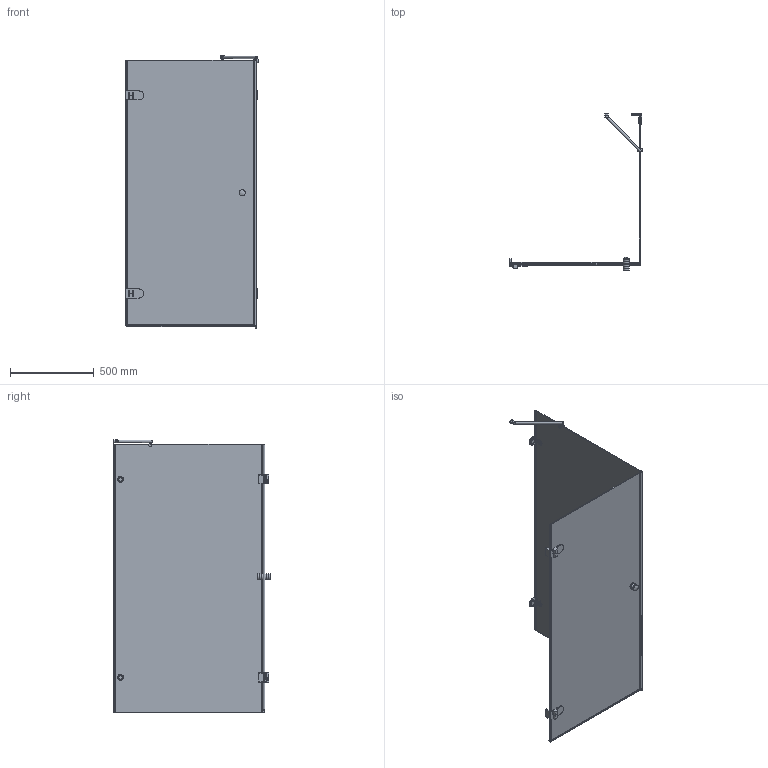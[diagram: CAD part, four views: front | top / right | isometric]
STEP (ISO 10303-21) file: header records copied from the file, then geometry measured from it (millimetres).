
FILE_DESCRIPTION(/* description */ (''),/* implementation_level */ '2;1');
FILE_NAME(/* name */ 'D:\4\LUX PART GV-001\LUX PART GV-001 левая модель\LUX PART GV-001 ЛЕВАЯ-3D.stp',/* time_stamp */ '2020-03-30T16:09:06+03:00',/* author */ ('User'),/* organization */ (''),/* preprocessor_version */ 'ST-DEVELOPER v15.2',/* originating_system */ 'Autodesk Inventor 2014',/* authorisation */ '');
FILE_SCHEMA (('AUTOMOTIVE_DESIGN { 1 0 10303 214 3 1 1 }'));
Length unit declared in the file: millimetre
Products named in the file (1): LUX PART GV-001 ЛЕВАЯ-3D
Bounding box: 793.5 x 938 x 1631.49 mm (x, y, z)
Volume: 16574432.4 mm3; surface area: 5683913.4 mm2
Topology: 2 solids, 13 shells, 492 faces, 1334 edges, 888 vertices
Faces by surface type: plane 288, cylinder 175, cone 10, torus 7, bspline 6, sphere 6
Full cylindrical faces by diameter (mm): 4.917 x2, 6 x2, 7 x2, 8 x1, 11 x3, 12 x3, 15 x1, 20 x2, 26 x1, 30 x4, 35 x2, 38 x4, 40 x2
Entity records: 16108 total; most frequent: CARTESIAN_POINT 3245, DIRECTION 2550, ORIENTED_EDGE 2532, EDGE_CURVE 1263, AXIS2_PLACEMENT_3D 870, VERTEX_POINT 866, LINE 810, VECTOR 810
